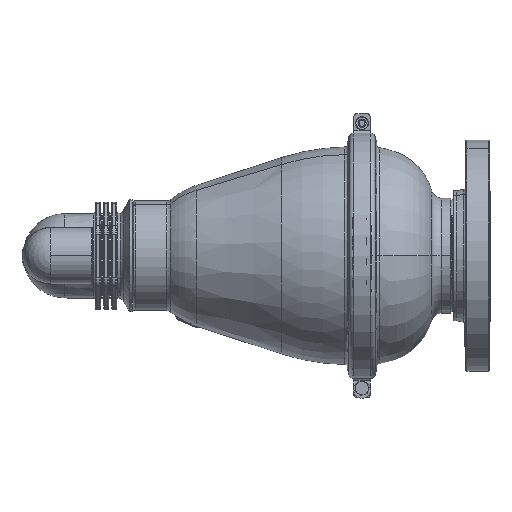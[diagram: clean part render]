
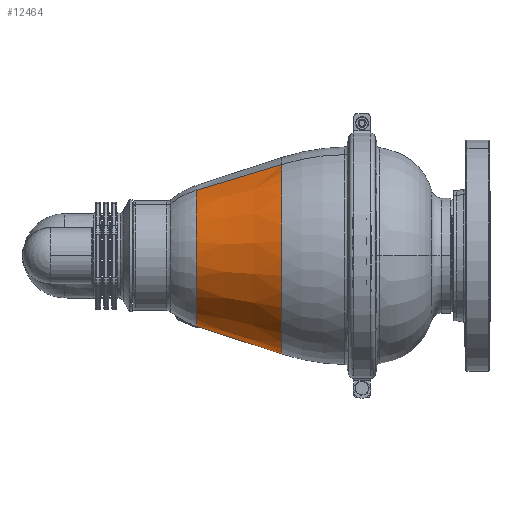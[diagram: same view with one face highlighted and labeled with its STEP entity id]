
A CAD part, left-side view. The second image highlights one B-rep face of the part: STEP entity #12464.
In plain terms, the highlighted conical face has half-angle 18 degrees and reference radius 96.771 mm.
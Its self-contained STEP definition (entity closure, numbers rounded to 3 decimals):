
#318 = VERTEX_POINT ( 'NONE', #18205 ) ;
#425 = DIRECTION ( 'NONE',  ( 0., -1., 0. ) ) ;
#426 = CARTESIAN_POINT ( 'NONE',  ( 19.013, 268.666, -71.488 ) ) ;
#490 = CARTESIAN_POINT ( 'NONE',  ( 17.686, 269.779, -71.455 ) ) ;
#569 = B_SPLINE_CURVE_WITH_KNOTS ( 'NONE', 3,
 ( #32641, #17871, #29894, #24105, #26748, #12556, #21175, #12432, #20662, #490, #35511, #737, #15222, #18265, #15098, #20796, #26998, #35264, #6705, #21047, #9641, #12179 ),
 .UNSPECIFIED., .F., .F.,
 ( 4, 2, 2, 2, 2, 2, 2, 2, 2, 2, 4 ),
 ( 0., 0.002, 0.004, 0.005, 0.006, 0.007, 0.007, 0.008, 0.008, 0.008, 0.008 ),
 .UNSPECIFIED. ) ;
#737 = CARTESIAN_POINT ( 'NONE',  ( 17.933, 269.319, -71.547 ) ) ;
#752 = ORIENTED_EDGE ( 'NONE', *, *, #13084, .F. ) ;
#1402 = VERTEX_POINT ( 'NONE', #15549 ) ;
#2054 = EDGE_CURVE ( 'NONE', #20483, #29438, #14639, .T. ) ;
#2840 = CARTESIAN_POINT ( 'NONE',  ( 15.506, 281.633, -68.014 ) ) ;
#3333 = DIRECTION ( 'NONE',  ( 0.115, -0.951, -0.287 ) ) ;
#3986 = ORIENTED_EDGE ( 'NONE', *, *, #33888, .F. ) ;
#4429 = ORIENTED_EDGE ( 'NONE', *, *, #18836, .T. ) ;
#4901 = B_SPLINE_CURVE_WITH_KNOTS ( 'NONE', 3,
 ( #20134, #34246, #2840, #31476, #11255, #25837, #34729 ),
 .UNSPECIFIED., .F., .F.,
 ( 4, 3, 4 ),
 ( 0., 0.002, 0.007 ),
 .UNSPECIFIED. ) ;
#5347 = VERTEX_POINT ( 'NONE', #10158 ) ;
#6705 = CARTESIAN_POINT ( 'NONE',  ( 18.684, 268.606, -71.594 ) ) ;
#7111 = AXIS2_PLACEMENT_3D ( 'NONE', #10229, #13283, #27720 ) ;
#8465 = VECTOR ( 'NONE', #3333, 1000. ) ;
#8801 = CARTESIAN_POINT ( 'NONE',  ( 21.616, 269.907, -70.326 ) ) ;
#9062 = CARTESIAN_POINT ( 'NONE',  ( 19.644, 269.02, -71.201 ) ) ;
#9320 = CARTESIAN_POINT ( 'NONE',  ( 0., 198.5, 0. ) ) ;
#9641 = CARTESIAN_POINT ( 'NONE',  ( 18.94, 268.625, -71.521 ) ) ;
#10158 = CARTESIAN_POINT ( 'NONE',  ( -35.926, 198.5, 89.855 ) ) ;
#10229 = CARTESIAN_POINT ( 'NONE',  ( 0., 282.9, 0. ) ) ;
#11255 = CARTESIAN_POINT ( 'NONE',  ( 15.791, 279.292, -68.729 ) ) ;
#11725 = CIRCLE ( 'NONE', #7111, 69.348 ) ;
#11860 = CARTESIAN_POINT ( 'NONE',  ( 25.736, 270.951, -68.577 ) ) ;
#12153 = EDGE_CURVE ( 'NONE', #25516, #33054, #4901, .T. ) ;
#12179 = CARTESIAN_POINT ( 'NONE',  ( 19.013, 268.666, -71.488 ) ) ;
#12432 = CARTESIAN_POINT ( 'NONE',  ( 17.352, 270.575, -71.271 ) ) ;
#12464 = ADVANCED_FACE ( 'NONE', ( #34611 ), #36420, .T. ) ;
#12556 = CARTESIAN_POINT ( 'NONE',  ( 17.038, 271.552, -71.02 ) ) ;
#13084 = EDGE_CURVE ( 'NONE', #1402, #5347, #27872, .T. ) ;
#13283 = DIRECTION ( 'NONE',  ( 0., -1., 0. ) ) ;
#14271 = CARTESIAN_POINT ( 'NONE',  ( 19.013, 268.666, -71.488 ) ) ;
#14639 = B_SPLINE_CURVE_WITH_KNOTS ( 'NONE', 3,
 ( #426, #9062, #17439, #8801, #26311, #29187, #11860, #14784 ),
 .UNSPECIFIED., .F., .F.,
 ( 4, 2, 2, 4 ),
 ( 0., 0.002, 0.005, 0.009 ),
 .UNSPECIFIED. ) ;
#14784 = CARTESIAN_POINT ( 'NONE',  ( 27.187, 270.951, -67.997 ) ) ;
#15098 = CARTESIAN_POINT ( 'NONE',  ( 18.246, 268.897, -71.609 ) ) ;
#15190 = VECTOR ( 'NONE', #20477, 1000. ) ;
#15222 = CARTESIAN_POINT ( 'NONE',  ( 18.025, 269.171, -71.574 ) ) ;
#15549 = CARTESIAN_POINT ( 'NONE',  ( -25.745, 282.9, 64.392 ) ) ;
#17439 = CARTESIAN_POINT ( 'NONE',  ( 20.292, 269.342, -70.91 ) ) ;
#17810 = ORIENTED_EDGE ( 'NONE', *, *, #19414, .T. ) ;
#17871 = CARTESIAN_POINT ( 'NONE',  ( 16.287, 275.205, -69.978 ) ) ;
#18205 = CARTESIAN_POINT ( 'NONE',  ( 35.926, 198.5, -89.855 ) ) ;
#18265 = CARTESIAN_POINT ( 'NONE',  ( 18.188, 268.964, -71.602 ) ) ;
#18836 = EDGE_CURVE ( 'NONE', #1402, #25516, #11725, .T. ) ;
#18873 = CARTESIAN_POINT ( 'NONE',  ( 0., 198.5, 0. ) ) ;
#18925 = CARTESIAN_POINT ( 'NONE',  ( 15.353, 282.9, -67.627 ) ) ;
#19314 = EDGE_LOOP ( 'NONE', ( #29343, #20421, #3986, #752, #4429, #36934, #17810 ) ) ;
#19414 = EDGE_CURVE ( 'NONE', #33054, #20483, #569, .T. ) ;
#20134 = CARTESIAN_POINT ( 'NONE',  ( 15.353, 282.9, -67.627 ) ) ;
#20191 = EDGE_CURVE ( 'NONE', #29438, #318, #24376, .T. ) ;
#20352 = CARTESIAN_POINT ( 'NONE',  ( -35.926, 198.5, 89.855 ) ) ;
#20421 = ORIENTED_EDGE ( 'NONE', *, *, #20191, .T. ) ;
#20477 = DIRECTION ( 'NONE',  ( -0.115, -0.951, 0.287 ) ) ;
#20483 = VERTEX_POINT ( 'NONE', #14271 ) ;
#20662 = CARTESIAN_POINT ( 'NONE',  ( 17.473, 270.252, -71.349 ) ) ;
#20728 = DIRECTION ( 'NONE',  ( -0.371, 0., 0.929 ) ) ;
#20796 = CARTESIAN_POINT ( 'NONE',  ( 18.375, 268.775, -71.618 ) ) ;
#21047 = CARTESIAN_POINT ( 'NONE',  ( 18.857, 268.601, -71.55 ) ) ;
#21175 = CARTESIAN_POINT ( 'NONE',  ( 17.135, 271.224, -71.106 ) ) ;
#22171 = DIRECTION ( 'NONE',  ( 0., -1., 0. ) ) ;
#23514 = AXIS2_PLACEMENT_3D ( 'NONE', #18873, #22171, #25070 ) ;
#23647 = CARTESIAN_POINT ( 'NONE',  ( 16.205, 275.875, -69.773 ) ) ;
#24105 = CARTESIAN_POINT ( 'NONE',  ( 16.63, 273.206, -70.565 ) ) ;
#24376 = LINE ( 'NONE', #26454, #8465 ) ;
#25070 = DIRECTION ( 'NONE',  ( -0.371, 0., 0.929 ) ) ;
#25516 = VERTEX_POINT ( 'NONE', #18925 ) ;
#25837 = CARTESIAN_POINT ( 'NONE',  ( 15.998, 277.584, -69.251 ) ) ;
#26311 = CARTESIAN_POINT ( 'NONE',  ( 22.288, 270.149, -70.033 ) ) ;
#26454 = CARTESIAN_POINT ( 'NONE',  ( 35.926, 198.5, -89.855 ) ) ;
#26748 = CARTESIAN_POINT ( 'NONE',  ( 16.773, 272.541, -70.753 ) ) ;
#26998 = CARTESIAN_POINT ( 'NONE',  ( 18.444, 268.72, -71.618 ) ) ;
#27720 = DIRECTION ( 'NONE',  ( -0.371, 0., 0.929 ) ) ;
#27872 = LINE ( 'NONE', #20352, #15190 ) ;
#29187 = CARTESIAN_POINT ( 'NONE',  ( 24.333, 270.738, -69.158 ) ) ;
#29343 = ORIENTED_EDGE ( 'NONE', *, *, #2054, .T. ) ;
#29438 = VERTEX_POINT ( 'NONE', #33305 ) ;
#29507 = AXIS2_PLACEMENT_3D ( 'NONE', #9320, #425, #20728 ) ;
#29894 = CARTESIAN_POINT ( 'NONE',  ( 16.386, 274.537, -70.177 ) ) ;
#31476 = CARTESIAN_POINT ( 'NONE',  ( 15.583, 281., -68.208 ) ) ;
#32641 = CARTESIAN_POINT ( 'NONE',  ( 16.205, 275.875, -69.773 ) ) ;
#33054 = VERTEX_POINT ( 'NONE', #23647 ) ;
#33305 = CARTESIAN_POINT ( 'NONE',  ( 27.187, 270.951, -67.997 ) ) ;
#33888 = EDGE_CURVE ( 'NONE', #5347, #318, #36220, .T. ) ;
#34246 = CARTESIAN_POINT ( 'NONE',  ( 15.429, 282.267, -67.821 ) ) ;
#34611 = FACE_OUTER_BOUND ( 'NONE', #19314, .T. ) ;
#34729 = CARTESIAN_POINT ( 'NONE',  ( 16.205, 275.875, -69.773 ) ) ;
#35264 = CARTESIAN_POINT ( 'NONE',  ( 18.598, 268.635, -71.607 ) ) ;
#35511 = CARTESIAN_POINT ( 'NONE',  ( 17.763, 269.622, -71.488 ) ) ;
#36220 = CIRCLE ( 'NONE', #23514, 96.771 ) ;
#36420 = CONICAL_SURFACE ( 'NONE', #29507, 96.771, 0.314 ) ;
#36934 = ORIENTED_EDGE ( 'NONE', *, *, #12153, .T. ) ;
